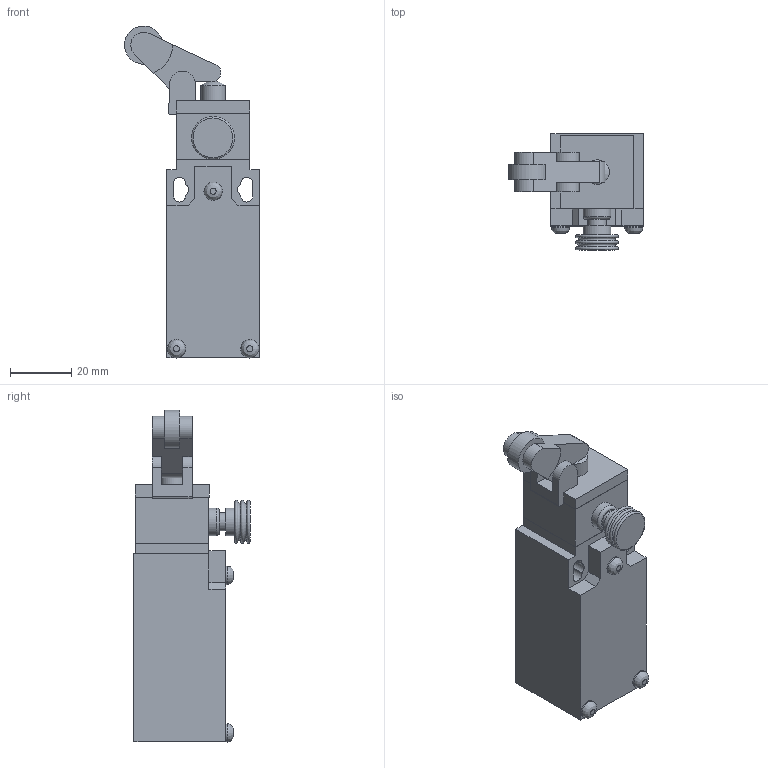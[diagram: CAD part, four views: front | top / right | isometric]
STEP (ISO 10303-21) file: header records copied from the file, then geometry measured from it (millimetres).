
FILE_DESCRIPTION((''),'2;1');
FILE_NAME('C:\Workarea\Disegni\Comepi\Catalogo\Stp\Finecorsa\AM1-R32.stp','2011-08-29T10:50:25',('Paolo'),(''),'Autodesk Inventor 2012','Autodesk Inventor 2012','');
FILE_SCHEMA(('AUTOMOTIVE_DESIGN { 1 0 10303 214 1 1 1 1 }'));
Length unit declared in the file: millimetre
Products named in the file (7): AM1-R32; AM1; R32; T32_1; T32_2; T32_3; R
Assembly tree (6 placements, depth 3):
  AM1-R32
    AM1
    R32
      T32_1
      T32_2
      T32_3
      R
Bounding box: 44.11 x 37.95 x 108.56 mm (x, y, z)
Volume: 66865 mm3; surface area: 18599.5 mm2
Topology: 5 solids, 5 shells, 103 faces, 247 edges, 160 vertices
Faces by surface type: plane 68, cylinder 25, torus 6, bspline 3, sphere 1
Full cylindrical faces by diameter (mm): 6 x4, 8 x2, 9 x2, 20.4 x1
Entity records: 3247 total; most frequent: CARTESIAN_POINT 633, DIRECTION 513, ORIENTED_EDGE 454, EDGE_CURVE 227, AXIS2_PLACEMENT_3D 173, VECTOR 167, LINE 167, VERTEX_POINT 158
